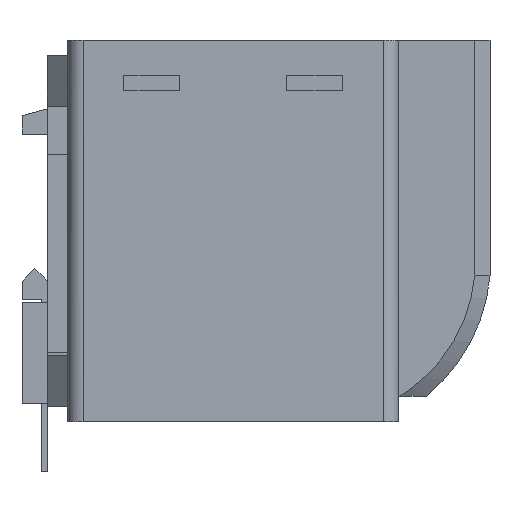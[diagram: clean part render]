
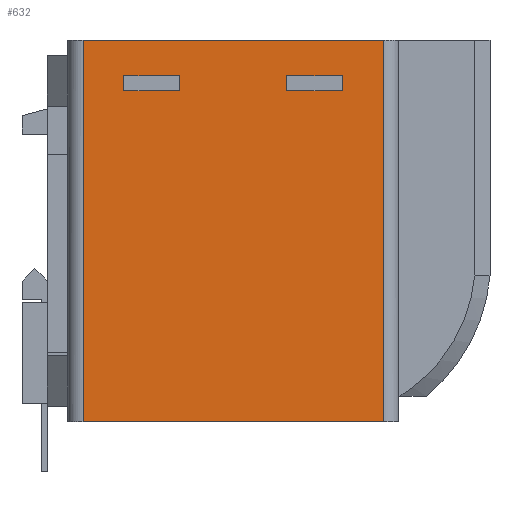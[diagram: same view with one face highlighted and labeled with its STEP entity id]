
A CAD part, left-side view. The second image highlights one B-rep face of the part: STEP entity #632.
In plain terms, the highlighted planar face has unit normal (-1, 0, 0).
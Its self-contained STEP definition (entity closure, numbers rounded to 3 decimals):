
#19=FACE_BOUND('',#1704,.T.);
#20=FACE_BOUND('',#1705,.T.);
#632=ADVANCED_FACE('',(#1164,#19,#20),#7104,.T.);
#1164=FACE_OUTER_BOUND('',#1703,.T.);
#1703=EDGE_LOOP('',(#4026,#4027,#4028,#4029));
#1704=EDGE_LOOP('',(#4030,#4031,#4032,#4033));
#1705=EDGE_LOOP('',(#4034,#4035,#4036,#4037));
#4026=ORIENTED_EDGE('',*,*,#5683,.F.);
#4027=ORIENTED_EDGE('',*,*,#5703,.T.);
#4028=ORIENTED_EDGE('',*,*,#5702,.F.);
#4029=ORIENTED_EDGE('',*,*,#5704,.T.);
#4030=ORIENTED_EDGE('',*,*,#5021,.T.);
#4031=ORIENTED_EDGE('',*,*,#5031,.T.);
#4032=ORIENTED_EDGE('',*,*,#5028,.T.);
#4033=ORIENTED_EDGE('',*,*,#5025,.T.);
#4034=ORIENTED_EDGE('',*,*,#5037,.T.);
#4035=ORIENTED_EDGE('',*,*,#5033,.T.);
#4036=ORIENTED_EDGE('',*,*,#5043,.T.);
#4037=ORIENTED_EDGE('',*,*,#5040,.T.);
#5021=EDGE_CURVE('',#6124,#6125,#7759,.T.);
#5025=EDGE_CURVE('',#6128,#6124,#7763,.T.);
#5028=EDGE_CURVE('',#6130,#6128,#7766,.T.);
#5031=EDGE_CURVE('',#6125,#6130,#7769,.T.);
#5033=EDGE_CURVE('',#6132,#6133,#7771,.T.);
#5037=EDGE_CURVE('',#6136,#6132,#7775,.T.);
#5040=EDGE_CURVE('',#6138,#6136,#7778,.T.);
#5043=EDGE_CURVE('',#6133,#6138,#7781,.T.);
#5683=EDGE_CURVE('',#6566,#6567,#8416,.T.);
#5702=EDGE_CURVE('',#6577,#6576,#8428,.T.);
#5703=EDGE_CURVE('',#6566,#6576,#8429,.T.);
#5704=EDGE_CURVE('',#6577,#6567,#8430,.T.);
#6124=VERTEX_POINT('',#10783);
#6125=VERTEX_POINT('',#10784);
#6128=VERTEX_POINT('',#10787);
#6130=VERTEX_POINT('',#10789);
#6132=VERTEX_POINT('',#10791);
#6133=VERTEX_POINT('',#10792);
#6136=VERTEX_POINT('',#10795);
#6138=VERTEX_POINT('',#10797);
#6566=VERTEX_POINT('',#11225);
#6567=VERTEX_POINT('',#11226);
#6576=VERTEX_POINT('',#11235);
#6577=VERTEX_POINT('',#11236);
#7104=PLANE('',#9050);
#7759=B_SPLINE_CURVE_WITH_KNOTS('',1,(#12501,#12502),.UNSPECIFIED.,.F.,
 .F.,(2,2),(32.5,35.5),.UNSPECIFIED.);
#7763=B_SPLINE_CURVE_WITH_KNOTS('',1,(#12509,#12510),.UNSPECIFIED.,.F.,
 .F.,(2,2),(-25.5,-14.5),.UNSPECIFIED.);
#7766=B_SPLINE_CURVE_WITH_KNOTS('',1,(#12515,#12516),.UNSPECIFIED.,.F.,
 .F.,(2,2),(-34.,-31.),.UNSPECIFIED.);
#7769=B_SPLINE_CURVE_WITH_KNOTS('',1,(#12521,#12522),.UNSPECIFIED.,.F.,
 .F.,(2,2),(20.,31.),.UNSPECIFIED.);
#7771=B_SPLINE_CURVE_WITH_KNOTS('',1,(#12525,#12526),.UNSPECIFIED.,.F.,
 .F.,(2,2),(-9.5,1.5),.UNSPECIFIED.);
#7775=B_SPLINE_CURVE_WITH_KNOTS('',1,(#12533,#12534),.UNSPECIFIED.,.F.,
 .F.,(2,2),(-34.,-31.),.UNSPECIFIED.);
#7778=B_SPLINE_CURVE_WITH_KNOTS('',1,(#12539,#12540),.UNSPECIFIED.,.F.,
 .F.,(2,2),(4.,15.),.UNSPECIFIED.);
#7781=B_SPLINE_CURVE_WITH_KNOTS('',1,(#12545,#12546),.UNSPECIFIED.,.F.,
 .F.,(2,2),(32.5,35.5),.UNSPECIFIED.);
#8416=B_SPLINE_CURVE_WITH_KNOTS('',1,(#13830,#13831),.UNSPECIFIED.,.F.,
 .F.,(2,2),(0.,75.),.UNSPECIFIED.);
#8428=B_SPLINE_CURVE_WITH_KNOTS('',1,(#13875,#13876),.UNSPECIFIED.,.F.,
 .F.,(2,2),(-75.,0.),.UNSPECIFIED.);
#8429=B_SPLINE_CURVE_WITH_KNOTS('',1,(#13877,#13878),.UNSPECIFIED.,.F.,
 .F.,(2,2),(-59.,0.),.UNSPECIFIED.);
#8430=B_SPLINE_CURVE_WITH_KNOTS('',1,(#13879,#13880),.UNSPECIFIED.,.F.,
 .F.,(2,2),(0.,59.),.UNSPECIFIED.);
#9050=AXIS2_PLACEMENT_3D('',#10399,#9584,$);
#9584=DIRECTION('',(-1.,0.,0.));
#10399=CARTESIAN_POINT('',(86.094,121.422,9.436));
#10783=CARTESIAN_POINT('',(86.094,81.412,74.446));
#10784=CARTESIAN_POINT('',(86.094,81.412,77.446));
#10787=CARTESIAN_POINT('',(86.094,70.412,74.446));
#10789=CARTESIAN_POINT('',(86.094,70.412,77.446));
#10791=CARTESIAN_POINT('',(86.094,102.412,74.446));
#10792=CARTESIAN_POINT('',(86.094,113.412,74.446));
#10795=CARTESIAN_POINT('',(86.094,102.412,77.446));
#10797=CARTESIAN_POINT('',(86.094,113.412,77.446));
#11225=CARTESIAN_POINT('',(86.094,121.412,9.446));
#11226=CARTESIAN_POINT('',(86.094,121.412,84.446));
#11235=CARTESIAN_POINT('',(86.094,62.412,9.446));
#11236=CARTESIAN_POINT('',(86.094,62.412,84.446));
#12501=CARTESIAN_POINT('',(86.094,81.412,74.446));
#12502=CARTESIAN_POINT('',(86.094,81.412,77.446));
#12509=CARTESIAN_POINT('',(86.094,70.412,74.446));
#12510=CARTESIAN_POINT('',(86.094,81.412,74.446));
#12515=CARTESIAN_POINT('',(86.094,70.412,77.446));
#12516=CARTESIAN_POINT('',(86.094,70.412,74.446));
#12521=CARTESIAN_POINT('',(86.094,81.412,77.446));
#12522=CARTESIAN_POINT('',(86.094,70.412,77.446));
#12525=CARTESIAN_POINT('',(86.094,102.412,74.446));
#12526=CARTESIAN_POINT('',(86.094,113.412,74.446));
#12533=CARTESIAN_POINT('',(86.094,102.412,77.446));
#12534=CARTESIAN_POINT('',(86.094,102.412,74.446));
#12539=CARTESIAN_POINT('',(86.094,113.412,77.446));
#12540=CARTESIAN_POINT('',(86.094,102.412,77.446));
#12545=CARTESIAN_POINT('',(86.094,113.412,74.446));
#12546=CARTESIAN_POINT('',(86.094,113.412,77.446));
#13830=CARTESIAN_POINT('',(86.094,121.412,9.446));
#13831=CARTESIAN_POINT('',(86.094,121.412,84.446));
#13875=CARTESIAN_POINT('',(86.094,62.412,84.446));
#13876=CARTESIAN_POINT('',(86.094,62.412,9.446));
#13877=CARTESIAN_POINT('',(86.094,121.412,9.446));
#13878=CARTESIAN_POINT('',(86.094,62.412,9.446));
#13879=CARTESIAN_POINT('',(86.094,62.412,84.446));
#13880=CARTESIAN_POINT('',(86.094,121.412,84.446));
